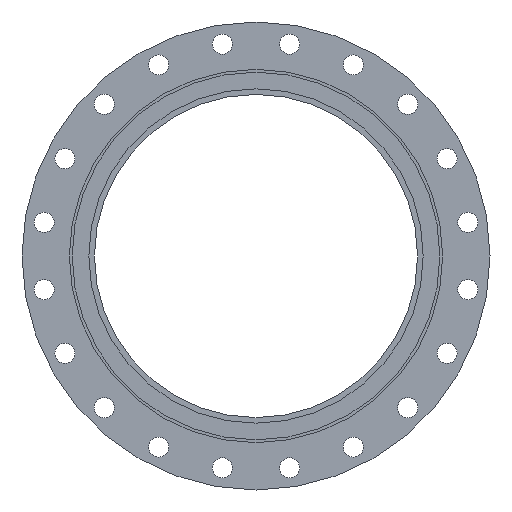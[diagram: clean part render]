
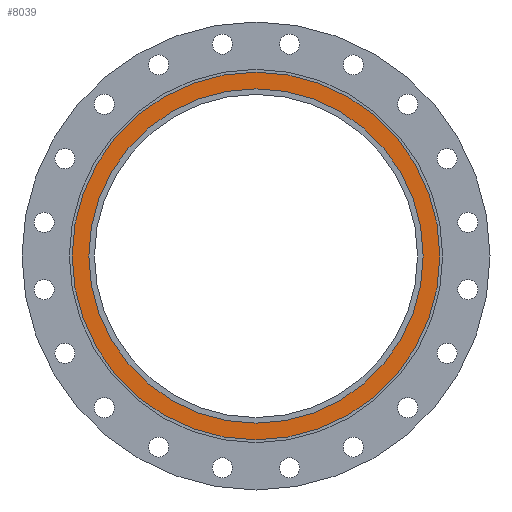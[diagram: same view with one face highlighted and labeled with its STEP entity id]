
A CAD part, left-side view. The second image highlights one B-rep face of the part: STEP entity #8039.
In plain terms, the highlighted planar face has unit normal (-1, 0, 0).
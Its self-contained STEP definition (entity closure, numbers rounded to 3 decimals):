
#8039=ADVANCED_FACE('',(#14478,#14480),#14482,.T.);
#14478=FACE_BOUND('',#14479,.T.);
#14479=EDGE_LOOP('',(#19798,#19799));
#14480=FACE_BOUND('',#14481,.T.);
#14481=EDGE_LOOP('',(#19800,#19801));
#14482=PLANE('',#14483);
#14483=AXIS2_PLACEMENT_3D('',#14484,#14485,#14486);
#14484=CARTESIAN_POINT('',(23.544,-317.295,0.));
#14485=DIRECTION('',(-1.,0.,0.));
#14486=DIRECTION('',(0.,0.,1.));
#19798=ORIENTED_EDGE('',*,*,#22491,.F.);
#19799=ORIENTED_EDGE('',*,*,#22492,.F.);
#19800=ORIENTED_EDGE('',*,*,#22489,.T.);
#19801=ORIENTED_EDGE('',*,*,#22490,.T.);
#22489=EDGE_CURVE('',#26790,#26791,#26792,.T.);
#22490=EDGE_CURVE('',#26791,#26790,#26793,.T.);
#22491=EDGE_CURVE('',#26794,#26795,#26796,.T.);
#22492=EDGE_CURVE('',#26795,#26794,#26797,.T.);
#26790=VERTEX_POINT('',#36305);
#26791=VERTEX_POINT('',#36306);
#26792=CIRCLE('',#36307,300.);
#26793=CIRCLE('',#36311,300.);
#26794=VERTEX_POINT('',#36315);
#26795=VERTEX_POINT('',#36316);
#26796=CIRCLE('',#36317,330.);
#26797=CIRCLE('',#36321,330.);
#36305=CARTESIAN_POINT('',(23.544,-287.295,0.));
#36306=CARTESIAN_POINT('',(23.544,312.705,0.));
#36307=AXIS2_PLACEMENT_3D('',#36308,#36309,#36310);
#36308=CARTESIAN_POINT('',(23.544,12.705,0.));
#36309=DIRECTION('',(1.,0.,0.));
#36310=DIRECTION('',(0.,-1.,0.));
#36311=AXIS2_PLACEMENT_3D('',#36312,#36313,#36314);
#36312=CARTESIAN_POINT('',(23.544,12.705,0.));
#36313=DIRECTION('',(1.,0.,0.));
#36314=DIRECTION('',(0.,1.,0.));
#36315=CARTESIAN_POINT('',(23.544,342.705,0.));
#36316=CARTESIAN_POINT('',(23.544,-317.295,0.));
#36317=AXIS2_PLACEMENT_3D('',#36318,#36319,#36320);
#36318=CARTESIAN_POINT('',(23.544,12.705,0.));
#36319=DIRECTION('',(1.,0.,0.));
#36320=DIRECTION('',(0.,1.,0.));
#36321=AXIS2_PLACEMENT_3D('',#36322,#36323,#36324);
#36322=CARTESIAN_POINT('',(23.544,12.705,0.));
#36323=DIRECTION('',(1.,0.,0.));
#36324=DIRECTION('',(0.,-1.,0.));
